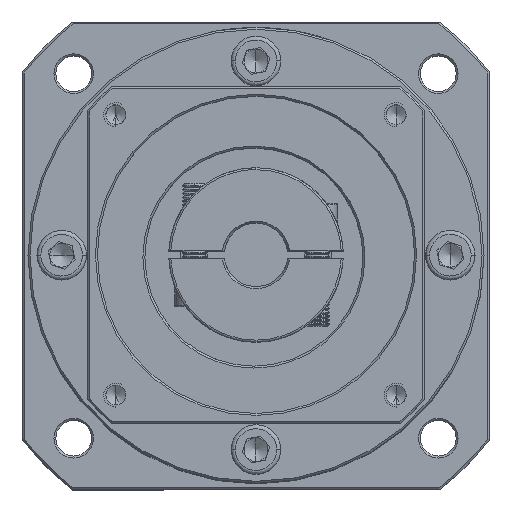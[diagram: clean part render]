
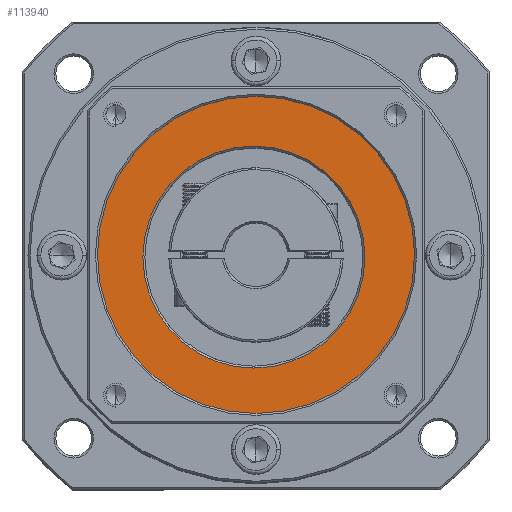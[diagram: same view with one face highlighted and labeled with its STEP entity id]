
A CAD part, top view. The second image highlights one B-rep face of the part: STEP entity #113940.
In plain terms, the highlighted planar face has unit normal (0, 0, 1).
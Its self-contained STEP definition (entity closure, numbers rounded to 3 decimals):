
#2064 = VERTEX_POINT ( 'NONE', #81691 ) ;
#6019 = EDGE_CURVE ( 'NONE', #33068, #2064, #99528, .T. ) ;
#10076 = CARTESIAN_POINT ( 'NONE',  ( 63.714, 68.586, -13.796 ) ) ;
#14430 = AXIS2_PLACEMENT_3D ( 'NONE', #59471, #79832, #119439 ) ;
#21709 = EDGE_LOOP ( 'NONE', ( #84830, #126683 ) ) ;
#25812 = AXIS2_PLACEMENT_3D ( 'NONE', #109736, #50669, #30425 ) ;
#26172 = DIRECTION ( 'NONE',  ( 0., 0., 1. ) ) ;
#26380 = CIRCLE ( 'NONE', #110446, 28. ) ;
#30425 = DIRECTION ( 'NONE',  ( 0., 1., 0. ) ) ;
#33068 = VERTEX_POINT ( 'NONE', #61063 ) ;
#35895 = EDGE_CURVE ( 'NONE', #121735, #43728, #26380, .T. ) ;
#36985 = CARTESIAN_POINT ( 'NONE',  ( 63.714, 68.586, -13.796 ) ) ;
#43728 = VERTEX_POINT ( 'NONE', #113528 ) ;
#45117 = PLANE ( 'NONE',  #50005 ) ;
#47462 = DIRECTION ( 'NONE',  ( 0., 0., -1. ) ) ;
#50005 = AXIS2_PLACEMENT_3D ( 'NONE', #66686, #26172, #77291 ) ;
#50669 = DIRECTION ( 'NONE',  ( 0., 0., 1. ) ) ;
#57004 = CIRCLE ( 'NONE', #14430, 40. ) ;
#59471 = CARTESIAN_POINT ( 'NONE',  ( 64.249, 69.128, -13.796 ) ) ;
#61063 = CARTESIAN_POINT ( 'NONE',  ( 64.249, 109.128, -13.796 ) ) ;
#66686 = CARTESIAN_POINT ( 'NONE',  ( 64.249, 69.128, -13.796 ) ) ;
#67000 = ORIENTED_EDGE ( 'NONE', *, *, #129517, .T. ) ;
#74510 = CARTESIAN_POINT ( 'NONE',  ( 63.714, 96.586, -13.796 ) ) ;
#76734 = ORIENTED_EDGE ( 'NONE', *, *, #6019, .T. ) ;
#77291 = DIRECTION ( 'NONE',  ( 0., 1., 0. ) ) ;
#79832 = DIRECTION ( 'NONE',  ( 0., 0., 1. ) ) ;
#81691 = CARTESIAN_POINT ( 'NONE',  ( 64.249, 29.128, -13.796 ) ) ;
#83738 = AXIS2_PLACEMENT_3D ( 'NONE', #10076, #127773, #88157 ) ;
#84830 = ORIENTED_EDGE ( 'NONE', *, *, #35895, .T. ) ;
#88074 = DIRECTION ( 'NONE',  ( 0., 1., 0. ) ) ;
#88157 = DIRECTION ( 'NONE',  ( 0., 1., 0. ) ) ;
#89188 = EDGE_CURVE ( 'NONE', #43728, #121735, #121989, .T. ) ;
#93493 = FACE_OUTER_BOUND ( 'NONE', #114251, .T. ) ;
#99528 = CIRCLE ( 'NONE', #25812, 40. ) ;
#109736 = CARTESIAN_POINT ( 'NONE',  ( 64.249, 69.128, -13.796 ) ) ;
#110446 = AXIS2_PLACEMENT_3D ( 'NONE', #36985, #47462, #88074 ) ;
#110797 = FACE_BOUND ( 'NONE', #21709, .T. ) ;
#113528 = CARTESIAN_POINT ( 'NONE',  ( 63.714, 40.586, -13.796 ) ) ;
#113940 = ADVANCED_FACE ( 'NONE', ( #93493, #110797 ), #45117, .T. ) ;
#114251 = EDGE_LOOP ( 'NONE', ( #76734, #67000 ) ) ;
#119439 = DIRECTION ( 'NONE',  ( 0., 1., 0. ) ) ;
#121735 = VERTEX_POINT ( 'NONE', #74510 ) ;
#121989 = CIRCLE ( 'NONE', #83738, 28. ) ;
#126683 = ORIENTED_EDGE ( 'NONE', *, *, #89188, .T. ) ;
#127773 = DIRECTION ( 'NONE',  ( 0., 0., -1. ) ) ;
#129517 = EDGE_CURVE ( 'NONE', #2064, #33068, #57004, .T. ) ;
